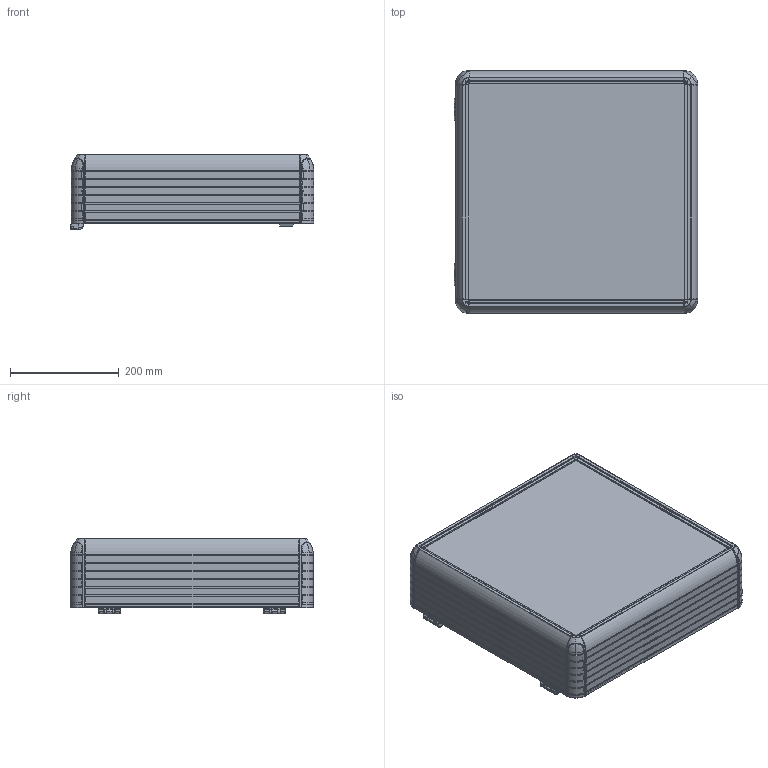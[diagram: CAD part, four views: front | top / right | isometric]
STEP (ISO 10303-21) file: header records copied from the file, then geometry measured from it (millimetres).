
FILE_DESCRIPTION (( 'STEP AP214' ), '1' );
FILE_NAME ('1200-0008.STEP', '2022-09-01T07:30:31', ( '' ), ( '' ), 'SwSTEP 2.0', 'SolidWorks 2022', '' );
FILE_SCHEMA (( 'AUTOMOTIVE_DESIGN' ));
Length unit declared in the file: millimetre
Products named in the file (5): 1200-0008; 400X400; ARKA_KAPAK_400X400; HPECO-120-001-295_395; ECO1200-0000
Assembly tree (10 placements, depth 2):
  1200-0008
    400X400
    ARKA_KAPAK_400X400
    HPECO-120-001-295_395  x4
    ECO1200-0000  x4
Bounding box: 449.03 x 447 x 139.15 mm (x, y, z)
Volume: 4072404.3 mm3; surface area: 1385222.9 mm2
Topology: 18 solids, 68 shells, 5793 faces, 15616 edges, 9766 vertices
Faces by surface type: plane 2417, cylinder 1464, bspline 1056, cone 566, torus 244, sphere 46
Entity records: 145186 total; most frequent: CARTESIAN_POINT 34696, ORIENTED_EDGE 17332, DIRECTION 15223, EDGE_CURVE 8666, AXIS2_PLACEMENT_3D 5603, VERTEX_POINT 5389, LINE 4017, VECTOR 4017
